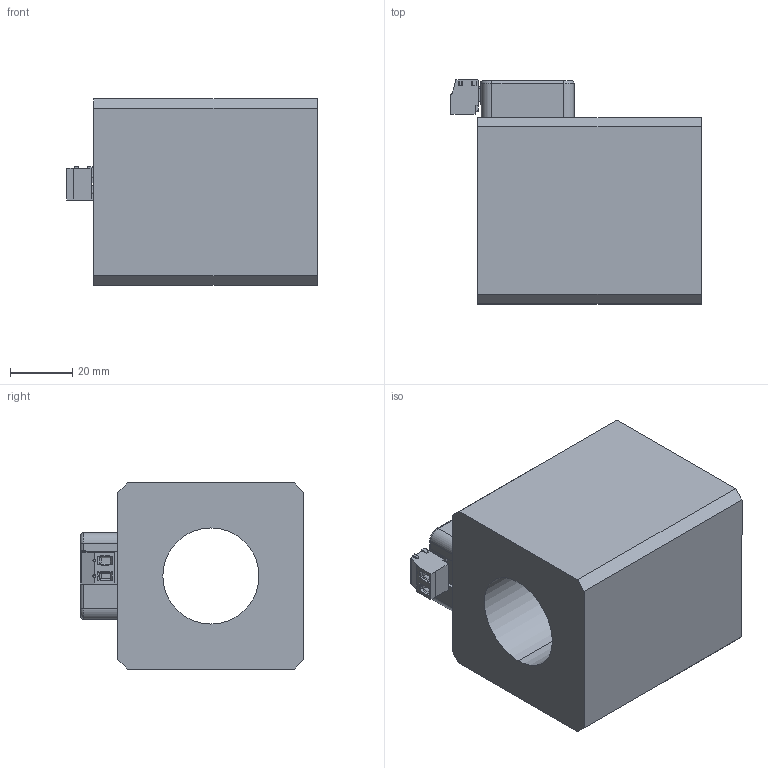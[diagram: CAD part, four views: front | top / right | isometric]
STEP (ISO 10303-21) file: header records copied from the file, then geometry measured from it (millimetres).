
FILE_DESCRIPTION (( 'STEP AP214' ), '1' );
FILE_NAME ('MXS60_31x72-M222a.STEP', '2015-07-17T07:56:26', ( '' ), ( '' ), 'SwSTEP 2.0', 'SolidWorks 2014', '' );
FILE_SCHEMA (( 'AUTOMOTIVE_DESIGN' ));
Length unit declared in the file: millimetre
Products named in the file (2): MXS60_31x72-M222a
Bounding box: 80.7 x 72.2 x 60 mm (x, y, z)
Volume: 220559.9 mm3; surface area: 39283.6 mm2
Topology: 2 solids, 7 shells, 522 faces, 1388 edges, 882 vertices
Faces by surface type: plane 257, cylinder 205, bspline 24, cone 22, torus 14
Entity records: 22630 total; most frequent: CARTESIAN_POINT 4200, ORIENTED_EDGE 2756, DIRECTION 2528, EDGE_CURVE 1378, VERTEX_POINT 882, VECTOR 880, LINE 880, AXIS2_PLACEMENT_3D 824
